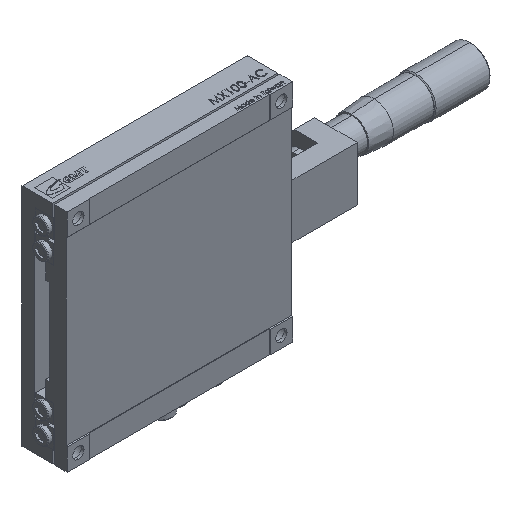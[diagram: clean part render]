
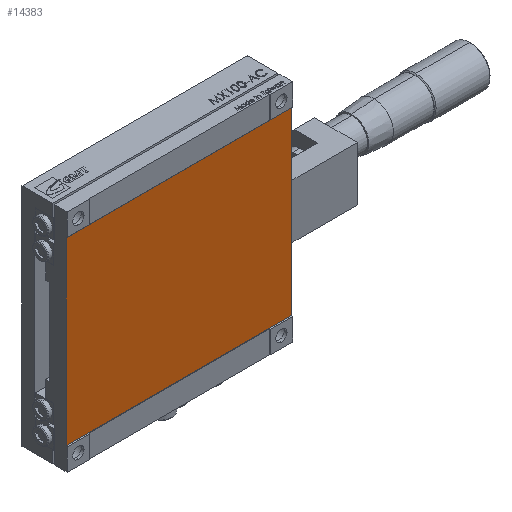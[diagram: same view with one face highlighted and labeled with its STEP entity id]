
A CAD part, isometric view. The second image highlights one B-rep face of the part: STEP entity #14383.
In plain terms, the highlighted planar face has unit normal (0, -1, 0).
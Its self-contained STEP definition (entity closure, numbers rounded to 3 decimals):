
#14377 = VERTEX_POINT ( 'NONE', #22377 ) ;
#14379 = EDGE_CURVE ( 'NONE', #14377, #14380, #22309, .T. ) ;
#14380 = VERTEX_POINT ( 'NONE', #22382 ) ;
#14383 = ADVANCED_FACE ( 'NONE', ( #22308 ), #22357, .F. ) ;
#14384 = EDGE_LOOP ( 'NONE', ( #14385, #14428, #14429, #14432 ) ) ;
#14385 = ORIENTED_EDGE ( 'NONE', *, *, #14386, .T. ) ;
#14386 = EDGE_CURVE ( 'NONE', #14427, #14380, #22312, .T. ) ;
#14402 = EDGE_CURVE ( 'NONE', #14431, #14427, #22386, .T. ) ;
#14427 = VERTEX_POINT ( 'NONE', #22465 ) ;
#14428 = ORIENTED_EDGE ( 'NONE', *, *, #14379, .F. ) ;
#14429 = ORIENTED_EDGE ( 'NONE', *, *, #14430, .F. ) ;
#14430 = EDGE_CURVE ( 'NONE', #14431, #14377, #22464, .T. ) ;
#14431 = VERTEX_POINT ( 'NONE', #22460 ) ;
#14432 = ORIENTED_EDGE ( 'NONE', *, *, #14402, .T. ) ;
#22308 = FACE_OUTER_BOUND ( 'NONE', #14384, .T. ) ;
#22309 = LINE ( 'NONE', #22374, #22373 ) ;
#22310 = VECTOR ( 'NONE', #22385, 1000. ) ;
#22311 = CARTESIAN_POINT ( 'NONE',  ( -50., 0.3, -79.464 ) ) ;
#22312 = LINE ( 'NONE', #22311, #22310 ) ;
#22313 = DIRECTION ( 'NONE',  ( -1., 0., 0. ) ) ;
#22314 = VECTOR ( 'NONE', #22313, 1000. ) ;
#22315 = CARTESIAN_POINT ( 'NONE',  ( 50., 0.3, 39.9 ) ) ;
#22353 = DIRECTION ( 'NONE',  ( 0., 0., 1. ) ) ;
#22354 = DIRECTION ( 'NONE',  ( 0., 1., 0. ) ) ;
#22355 = CARTESIAN_POINT ( 'NONE',  ( 50., 0.3, -79.464 ) ) ;
#22356 = AXIS2_PLACEMENT_3D ( 'NONE', #22355, #22354, #22353 ) ;
#22357 = PLANE ( 'NONE',  #22356 ) ;
#22372 = DIRECTION ( 'NONE',  ( -1., 0., 0. ) ) ;
#22373 = VECTOR ( 'NONE', #22372, 1000. ) ;
#22374 = CARTESIAN_POINT ( 'NONE',  ( 50., 0.3, -39.9 ) ) ;
#22377 = CARTESIAN_POINT ( 'NONE',  ( 50., 0.3, -39.9 ) ) ;
#22382 = CARTESIAN_POINT ( 'NONE',  ( -50., 0.3, -39.9 ) ) ;
#22385 = DIRECTION ( 'NONE',  ( 0., 0., -1. ) ) ;
#22386 = LINE ( 'NONE', #22315, #22314 ) ;
#22460 = CARTESIAN_POINT ( 'NONE',  ( 50., 0.3, 39.9 ) ) ;
#22461 = DIRECTION ( 'NONE',  ( 0., 0., -1. ) ) ;
#22462 = VECTOR ( 'NONE', #22461, 1000. ) ;
#22463 = CARTESIAN_POINT ( 'NONE',  ( 50., 0.3, -79.464 ) ) ;
#22464 = LINE ( 'NONE', #22463, #22462 ) ;
#22465 = CARTESIAN_POINT ( 'NONE',  ( -50., 0.3, 39.9 ) ) ;
